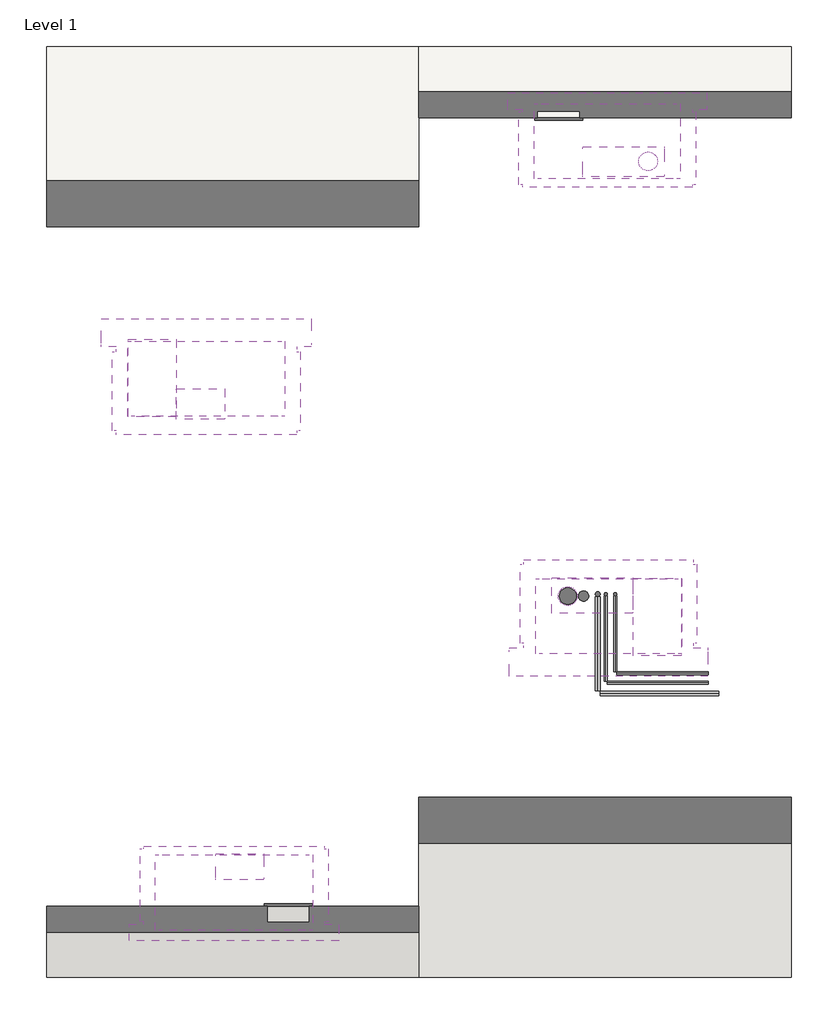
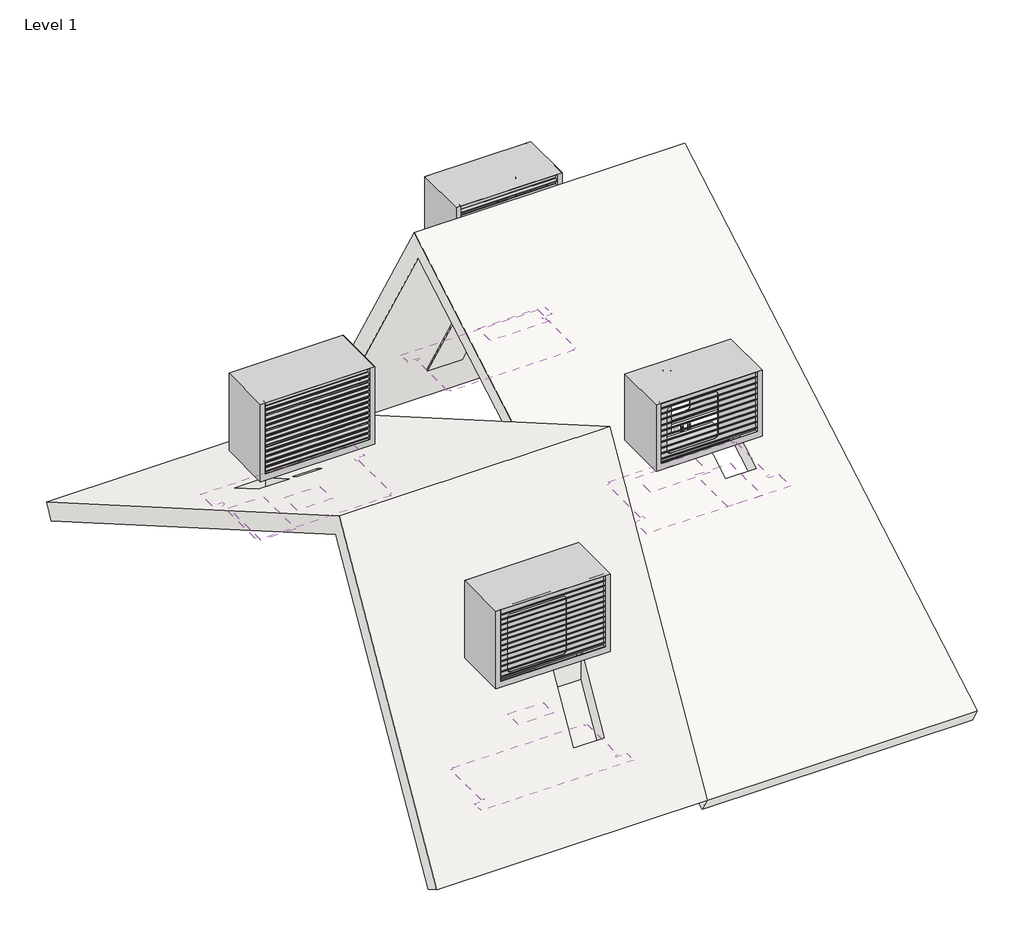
# One storey, incomplete: 12 coverings, 12 pipe segments, 4 unitary equipment elements, 2 roofs, 1 duct segment.
"""IFC4 building model written with IfcOpenShell, lengths in millimetres."""

from ifc_helpers import new_model, si_unit, point, frame, frame_2d, origin, place, context, project, spatial, circle_curve, trimmed, segment, composite_curve, outline, extrude, faceted_brep, transform, mapped, element, save
from components import covering_ebfa055f, covering_0022e7d6, covering_44cbcef2, covering_237e270b, covering_b66512e7, covering_b17e486a, covering_12e15cb3, covering_40b79405, inspection_panel_dda_93841c41, inspection_panel_dda_a83ceb8f, pipe_segment_adc9d0ba, delta_discovery_air_bdbf6794, delta_discovery_air_83ad3b17, delta_discovery_air_xl_f5126de7, delta_discovery_air_xl_14b97afa

model = new_model("IFC4")

# Units and contexts
model_context = context("Model", 3, world=origin())
ifc_project = project(units=[si_unit("LENGTHUNIT", "METRE", prefix="MILLI")], contexts=[model_context])

# Site, building, storey
site = spatial("IfcSite", under=ifc_project)
building = spatial("IfcBuilding", under=site)
storey = spatial("IfcBuildingStorey", under=building, Name="Level 1", Elevation=0.0)

# Coverings
placement = place(None, origin())
covering_shape = covering_ebfa055f(model_context)
element("IfcCovering", 1, ObjectType="DERS_353_AM_AEB_Delta Discovery Air_roofboard-GG_M&G : roofboard DDA", at=placement, inside=storey, context=model_context, shape_type="MappedRepresentation", body=[
    mapped(covering_shape, transform((8173.9996074, -2205.0044356, 2446.472508), x_axis=(0.0, 1.0, 0.0), y_axis=(-1.0, 0.0, 0.0), z_axis=(0.0, 0.0, 1.0))),
])
covering_2_shape = covering_0022e7d6(model_context)
element("IfcCovering", 2, ObjectType="DERS_353_AM_AEB_Delta Discovery Air_roofboard-GG_M&G : roofboard DDA-XL", at=placement, inside=storey, context=model_context, shape_type="MappedRepresentation", body=[
    mapped(covering_2_shape, transform((4387.1169231, -5120.7336825, 1913.2301476), x_axis=(0.0, 1.0, 0.0), y_axis=(-1.0, 0.0, 0.0), z_axis=(0.0, 0.0, 1.0))),
])
covering_3_shape = covering_44cbcef2(model_context)
element("IfcCovering", 3, ObjectType="DERS_353_AM_AEB_Delta Discovery Air_roofboard-GG_M&G : roofboard DDA", at=placement, inside=storey, context=model_context, shape_type="MappedRepresentation", body=[
    mapped(covering_3_shape, transform((8510.5299691, 2471.6914792, 1998.8333786), x_axis=(0.0, -1.0, 0.0), y_axis=(1.0, 0.0, 0.0), z_axis=(0.0, 0.0, 1.0))),
])
covering_4_shape = covering_237e270b(model_context)
element("IfcCovering", 4, ObjectType="DERS_353_AM_AEB_Delta Discovery Air_roofboard-GG_M&G : roofboard DDA-XL", at=placement, inside=storey, context=model_context, shape_type="MappedRepresentation", body=[
    mapped(covering_4_shape, transform((3967.4796779, -136.1061362, 2297.222508), x_axis=(0.0, -1.0, 0.0), y_axis=(1.0, 0.0, 0.0), z_axis=(0.0, 0.0, 1.0))),
])
covering_5_shape = covering_b66512e7(model_context)
element("IfcCovering", 5, ObjectType="DERS_420_AM_AEB_Delta Discovery Air_mountingbox-GG_M&G : mountingbox DDA", at=placement, inside=storey, context=model_context, shape_type="MappedRepresentation", body=[
    mapped(covering_5_shape, transform((8348.9996074, -2760.4599845, 2414.4513833), x_axis=(0.0, 1.0, 0.0), y_axis=(-1.0, 0.0, 0.0), z_axis=(0.0, 0.0, 1.0))),
])
covering_6_shape = covering_b17e486a(model_context)
element("IfcCovering", 6, ObjectType="DERS_420_AM_AEB_Delta Discovery Air_mountingbox-GG_M&G : mountingbox DDA-XL", at=placement, inside=storey, context=model_context, shape_type="MappedRepresentation", body=[
    mapped(covering_6_shape, transform((4325.6169231, -5727.2270166, 1362.7413328), x_axis=(0.0, 1.0, 0.0), y_axis=(-1.0, 0.0, 0.0), z_axis=(0.0, 0.0, 1.0))),
])
covering_7_shape = covering_12e15cb3(model_context)
element("IfcCovering", 7, ObjectType="DERS_420_AM_AEB_Delta Discovery Air_mountingbox-GG_M&G : mountingbox DDA", at=placement, inside=storey, context=model_context, shape_type="MappedRepresentation", body=[
    mapped(covering_7_shape, transform((8335.5299691, 3023.6848133, 1542.7413328), x_axis=(0.0, -1.0, 0.0), y_axis=(1.0, 0.0, 0.0), z_axis=(0.0, 0.0, 1.0))),
])
covering_8_shape = covering_40b79405(model_context)
element("IfcCovering", 8, ObjectType="DERS_420_AM_AEB_Delta Discovery Air_mountingbox-GG_M&G : mountingbox DDA-XL", at=placement, inside=storey, context=model_context, shape_type="MappedRepresentation", body=[
    mapped(covering_8_shape, transform((4028.9796779, 472.6099751, 2234.4513833), x_axis=(0.0, -1.0, 0.0), y_axis=(1.0, 0.0, 0.0), z_axis=(0.0, 0.0, 1.0))),
])
inspection_panel_dda_shape = inspection_panel_dda_93841c41(model_context)
element("IfcCovering", 9, ObjectType="DERS_353_AM_AEB_Delta Discovery Air_insp panel-GG_M&G : inspection panel DDA", at=placement, inside=storey, context=model_context, shape_type="MappedRepresentation", body=[
    mapped(inspection_panel_dda_shape, transform((8871.4996074, -2434.0681549, 2314.222508), x_axis=(0.0, 1.0000000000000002, 0.0), y_axis=(-1.0000000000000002, 0.0, 0.0), z_axis=(0.0, 0.0, 1.0))),
])
element("IfcCovering", 10, ObjectType="DERS_353_AM_AEB_Delta Discovery Air_insp panel-GG_M&G : inspection panel DDA", at=placement, inside=storey, context=model_context, shape_type="MappedRepresentation", body=[
    mapped(inspection_panel_dda_shape, transform((3446.4796779, 146.2181454, 2134.222508), x_axis=(0.0, -1.0000000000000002, 0.0), y_axis=(1.0000000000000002, 0.0, 0.0), z_axis=(0.0, 0.0, 1.0))),
])
inspection_panel_dda_2_shape = inspection_panel_dda_a83ceb8f(model_context)
element("IfcCovering", 11, ObjectType="DERS_353_AM_AEB_Delta Discovery Air_insp panel-GG_M&G : inspection panel DDA", at=placement, inside=storey, context=model_context, shape_type="MappedRepresentation", body=[
    mapped(inspection_panel_dda_2_shape, transform((4908.1169231, -5404.7336825, 1421.3277183), x_axis=(0.0, 1.0000000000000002, 0.0), y_axis=(-1.0000000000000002, 0.0, 0.0), z_axis=(0.0, 0.0, 1.0))),
])
element("IfcCovering", 12, ObjectType="DERS_353_AM_AEB_Delta Discovery Air_insp panel-GG_M&G : inspection panel DDA", at=placement, inside=storey, context=model_context, shape_type="MappedRepresentation", body=[
    mapped(inspection_panel_dda_2_shape, transform((7813.0299691, 2701.1914792, 1601.3277183), x_axis=(0.0, -1.0000000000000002, 0.0), y_axis=(1.0000000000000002, 0.0, 0.0), z_axis=(0.0, 0.0, 1.0))),
])

# Duct segment
element("IfcDuctSegment", 13, ObjectType="Default", at=placement, inside=storey, context=model_context, shape_type="SweptSolid", body=[
    extrude(outline(composite_curve([segment(trimmed(circle_curve(frame_2d((7910.9996074, -2203.4666504)), 90.0), [point((7910.9996074, -2113.4666504))], [point((8000.9996074, -2203.4666504))], False, "CARTESIAN"), True, "CONTINUOUS"), segment(trimmed(circle_curve(frame_2d((7910.9996074, -2203.4666504)), 90.0), [point((8000.9996074, -2203.4666504))], [point((7910.9996074, -2293.4666504))], False, "CARTESIAN"), True, "CONTINUOUS"), segment(trimmed(circle_curve(frame_2d((7910.9996074, -2203.4666504)), 90.0), [point((7910.9996074, -2293.4666504))], [point((7820.9996074, -2203.4666504))], False, "CARTESIAN"), True, "CONTINUOUS"), segment(trimmed(circle_curve(frame_2d((7910.9996074, -2203.4666504)), 90.0), [point((7820.9996074, -2203.4666504))], [point((7910.9996074, -2113.4666504))], False, "CARTESIAN"), True, "CONTINUOUS")], self_intersect=False)), frame((0.0, 0.0, 735.229457), z_axis=(0.0, 0.0, 1.0), x_axis=(1.0, 0.0, 0.0)), (0.0, 0.0, 1.0), 1300.0),
])

# Pipe segments
pipe_segment_shape = pipe_segment_adc9d0ba(model_context)
element("IfcPipeSegment", 14, ObjectType="DERS_420_AM_AEB_Delta Discovery Air_pipe extension set-GG_M&G : pipe ext set L=1000mm", at=placement, inside=storey, context=model_context, shape_type="MappedRepresentation", body=[
    mapped(pipe_segment_shape, transform((7910.9996074, -2203.4666504, 3035.229457), x_axis=(1.0, 0.0, 0.0), y_axis=(0.0, 1.0, 0.0), z_axis=(0.0, 0.0, 1.0))),
])
element("IfcPipeSegment", 15, ObjectType="DERS_420_AM_AEB_Delta Discovery Air_pipe extension set-GG_M&G : pipe ext set L=1000mm", at=placement, inside=storey, context=model_context, shape_type="MappedRepresentation", body=[
    mapped(pipe_segment_shape, transform((8773.5299691, 2466.6914792, 3035.229457), x_axis=(-1.0, 0.0, 0.0), y_axis=(0.0, -1.0, 0.0), z_axis=(0.0, 0.0, 1.0))),
])
element("IfcPipeSegment", 16, ObjectType="design HDPE", at=placement, inside=storey, context=model_context, shape_type="SweptSolid", body=[
    extrude(outline(composite_curve([segment(trimmed(circle_curve(frame_2d((0.0, 24.9999999)), 25.0), [point((25.0, 24.9999999))], [point((0.0, 0.0))], False, "CARTESIAN"), True, "CONTINUOUS"), segment(trimmed(circle_curve(frame_2d((0.0, 24.9999999)), 25.0), [point((0.0, 0.0))], [point((-25.0, 24.9999999))], False, "CARTESIAN"), True, "CONTINUOUS"), segment(trimmed(circle_curve(frame_2d((0.0, 24.9999999)), 25.0), [point((-25.0, 24.9999999))], [point((0.0, 50.0))], False, "CARTESIAN"), True, "CONTINUOUS"), segment(trimmed(circle_curve(frame_2d((0.0, 24.9999999)), 25.0), [point((0.0, 50.0))], [point((25.0, 24.9999999))], False, "CARTESIAN"), True, "CONTINUOUS")], self_intersect=False)), frame((8233.1495399, -3221.3594747, 79.9148917), z_axis=(0.0, 0.9998875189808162, 0.01499831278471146), x_axis=(1.0, 0.0, 0.0)), (0.0, 0.0, 1.0), 1011.1347494),
])
element("IfcPipeSegment", 17, ObjectType="design HDPE", at=placement, inside=storey, context=model_context, shape_type="SweptSolid", body=[
    extrude(outline(composite_curve([segment(trimmed(circle_curve(frame_2d((0.0, 25.0)), 25.0), [point((0.0, 50.0))], [point((25.0, 25.0))], False, "CARTESIAN"), True, "CONTINUOUS"), segment(trimmed(circle_curve(frame_2d((0.0, 25.0)), 25.0), [point((25.0, 25.0))], [point((0.0, 0.0))], False, "CARTESIAN"), True, "CONTINUOUS"), segment(trimmed(circle_curve(frame_2d((0.0, 25.0)), 25.0), [point((0.0, 0.0))], [point((-25.0, 25.0))], False, "CARTESIAN"), True, "CONTINUOUS"), segment(trimmed(circle_curve(frame_2d((0.0, 25.0)), 25.0), [point((-25.0, 25.0))], [point((0.0, 50.0))], False, "CARTESIAN"), True, "CONTINUOUS")], self_intersect=False)), frame((9532.9996074, -3273.9813674, 35.0), z_axis=(-0.9998875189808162, 0.0, 0.014998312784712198), x_axis=(0.014998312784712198, 0.0, 0.9998875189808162)), (0.0, 0.0, 1.0), 1271.9962924),
])
element("IfcPipeSegment", 18, ObjectType="design HDPE", at=placement, inside=storey, context=model_context, shape_type="SweptSolid", body=[
    extrude(outline(composite_curve([segment(trimmed(circle_curve(frame_2d((8232.9996074, -2181.9666504)), 25.0), [point((8257.9996074, -2181.9666504))], [point((8232.9996074, -2206.9666504))], False, "CARTESIAN"), True, "CONTINUOUS"), segment(trimmed(circle_curve(frame_2d((8232.9996074, -2181.9666504)), 25.0), [point((8232.9996074, -2206.9666504))], [point((8207.9996074, -2181.9666504))], False, "CARTESIAN"), True, "CONTINUOUS"), segment(trimmed(circle_curve(frame_2d((8232.9996074, -2181.9666504)), 25.0), [point((8207.9996074, -2181.9666504))], [point((8232.9996074, -2156.9666504))], False, "CARTESIAN"), True, "CONTINUOUS"), segment(trimmed(circle_curve(frame_2d((8232.9996074, -2181.9666504)), 25.0), [point((8232.9996074, -2156.9666504))], [point((8257.9996074, -2181.9666504))], False, "CARTESIAN"), True, "CONTINUOUS")], self_intersect=False)), frame((0.0, 0.0, 98.5029718), z_axis=(0.0, 0.0, 1.0), x_axis=(1.0, 0.0, 0.0)), (0.0, 0.0, 1.0), 1936.7264853),
])
element("IfcPipeSegment", 19, ObjectType="design HDPE", at=placement, inside=storey, context=model_context, shape_type="SweptSolid", body=[
    extrude(outline(composite_curve([segment(trimmed(circle_curve(frame_2d((8080.9996074, -2203.4666504)), 55.0), [point((8135.9996074, -2203.4666504))], [point((8080.9996074, -2258.4666504))], False, "CARTESIAN"), True, "CONTINUOUS"), segment(trimmed(circle_curve(frame_2d((8080.9996074, -2203.4666504)), 55.0), [point((8080.9996074, -2258.4666504))], [point((8025.9996074, -2203.4666504))], False, "CARTESIAN"), True, "CONTINUOUS"), segment(trimmed(circle_curve(frame_2d((8080.9996074, -2203.4666504)), 55.0), [point((8025.9996074, -2203.4666504))], [point((8080.9996074, -2148.4666504))], False, "CARTESIAN"), True, "CONTINUOUS"), segment(trimmed(circle_curve(frame_2d((8080.9996074, -2203.4666504)), 55.0), [point((8080.9996074, -2148.4666504))], [point((8135.9996074, -2203.4666504))], False, "CARTESIAN"), True, "CONTINUOUS")], self_intersect=False)), frame((0.0, 0.0, 316.0), z_axis=(0.0, 0.0, 1.0), x_axis=(1.0, 0.0, 0.0)), (0.0, 0.0, 1.0), 1719.229457),
])
element("IfcPipeSegment", 20, ObjectType="design steel pipes", at=placement, inside=storey, context=model_context, shape_type="SweptSolid", body=[
    extrude(outline(composite_curve([segment(trimmed(circle_curve(frame_2d((8419.9996074, -2181.9666504)), 16.85), [point((8436.8496074, -2181.9666504))], [point((8419.9996074, -2198.8166504))], False, "CARTESIAN"), True, "CONTINUOUS"), segment(trimmed(circle_curve(frame_2d((8419.9996074, -2181.9666504)), 16.85), [point((8419.9996074, -2198.8166504))], [point((8403.1496074, -2181.9666504))], False, "CARTESIAN"), True, "CONTINUOUS"), segment(trimmed(circle_curve(frame_2d((8419.9996074, -2181.9666504)), 16.85), [point((8403.1496074, -2181.9666504))], [point((8419.9996074, -2165.1166504))], False, "CARTESIAN"), True, "CONTINUOUS"), segment(trimmed(circle_curve(frame_2d((8419.9996074, -2181.9666504)), 16.85), [point((8419.9996074, -2165.1166504))], [point((8436.8496074, -2181.9666504))], False, "CARTESIAN"), True, "CONTINUOUS")], self_intersect=False)), frame((0.0, 0.0, 42.5), z_axis=(0.0, 0.0, 1.0), x_axis=(1.0, 0.0, 0.0)), (0.0, 0.0, 1.0), 2984.9867719),
])
element("IfcPipeSegment", 21, ObjectType="design steel pipes", at=placement, inside=storey, context=model_context, shape_type="SweptSolid", body=[
    extrude(outline(composite_curve([segment(trimmed(circle_curve(frame_2d((25.0, 8419.9996074)), 16.85), [point((25.0, 8403.1496074))], [point((8.15, 8419.9996074))], False, "CARTESIAN"), True, "CONTINUOUS"), segment(trimmed(circle_curve(frame_2d((25.0, 8419.9996074)), 16.85), [point((8.15, 8419.9996074))], [point((25.0, 8436.8496074))], False, "CARTESIAN"), True, "CONTINUOUS"), segment(trimmed(circle_curve(frame_2d((25.0, 8419.9996074)), 16.85), [point((25.0, 8436.8496074))], [point((41.85, 8419.9996074))], False, "CARTESIAN"), True, "CONTINUOUS"), segment(trimmed(circle_curve(frame_2d((25.0, 8419.9996074)), 16.85), [point((41.85, 8419.9996074))], [point((25.0, 8403.1496074))], False, "CARTESIAN"), True, "CONTINUOUS")], self_intersect=False)), frame((0.0, -3015.3499545, 0.0), z_axis=(0.0, 1.0, 0.0), x_axis=(0.0, 0.0, 1.0)), (0.0, 0.0, 1.0), 815.8833041),
])
element("IfcPipeSegment", 22, ObjectType="design steel pipes", at=placement, inside=storey, context=model_context, shape_type="SweptSolid", body=[
    extrude(outline(composite_curve([segment(trimmed(circle_curve(frame_2d((0.0, 16.8499999)), 16.85), [point((-16.85, 16.8499999))], [point((0.0, 33.6999999))], False, "CARTESIAN"), True, "CONTINUOUS"), segment(trimmed(circle_curve(frame_2d((0.0, 16.8499999)), 16.85), [point((0.0, 33.6999999))], [point((16.85, 16.8499999))], False, "CARTESIAN"), True, "CONTINUOUS"), segment(trimmed(circle_curve(frame_2d((0.0, 16.8499999)), 16.85), [point((16.85, 16.8499999))], [point((0.0, 0.0))], False, "CARTESIAN"), True, "CONTINUOUS"), segment(trimmed(circle_curve(frame_2d((0.0, 16.8499999)), 16.85), [point((0.0, 0.0))], [point((-16.85, 16.8499999))], False, "CARTESIAN"), True, "CONTINUOUS")], self_intersect=False)), frame((8437.5000121, -3032.8499545, 8.1504204), z_axis=(0.9999999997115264, 0.0, 2.401972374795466e-05), x_axis=(0.0, 1.0, 0.0)), (0.0, 0.0, 1.0), 982.5443409),
])
element("IfcPipeSegment", 23, ObjectType="design steel pipes", at=placement, inside=storey, context=model_context, shape_type="SweptSolid", body=[
    extrude(outline(composite_curve([segment(trimmed(circle_curve(frame_2d((8319.9996074, -2181.9666504)), 16.85), [point((8303.1496074, -2181.9666504))], [point((8319.9996074, -2165.1166504))], False, "CARTESIAN"), True, "CONTINUOUS"), segment(trimmed(circle_curve(frame_2d((8319.9996074, -2181.9666504)), 16.85), [point((8319.9996074, -2165.1166504))], [point((8336.8496074, -2181.9666504))], False, "CARTESIAN"), True, "CONTINUOUS"), segment(trimmed(circle_curve(frame_2d((8319.9996074, -2181.9666504)), 16.85), [point((8336.8496074, -2181.9666504))], [point((8319.9996074, -2198.8166504))], False, "CARTESIAN"), True, "CONTINUOUS"), segment(trimmed(circle_curve(frame_2d((8319.9996074, -2181.9666504)), 16.85), [point((8319.9996074, -2198.8166504))], [point((8303.1496074, -2181.9666504))], False, "CARTESIAN"), True, "CONTINUOUS")], self_intersect=False)), frame((0.0, 0.0, 42.5), z_axis=(0.0, 0.0, 1.0), x_axis=(1.0, 0.0, 0.0)), (0.0, 0.0, 1.0), 2984.9867719),
])
element("IfcPipeSegment", 24, ObjectType="design steel pipes", at=placement, inside=storey, context=model_context, shape_type="SweptSolid", body=[
    extrude(outline(composite_curve([segment(trimmed(circle_curve(frame_2d((25.0, 8319.9996074)), 16.85), [point((25.0, 8303.1496074))], [point((8.15, 8319.9996074))], False, "CARTESIAN"), True, "CONTINUOUS"), segment(trimmed(circle_curve(frame_2d((25.0, 8319.9996074)), 16.85), [point((8.15, 8319.9996074))], [point((25.0, 8336.8496074))], False, "CARTESIAN"), True, "CONTINUOUS"), segment(trimmed(circle_curve(frame_2d((25.0, 8319.9996074)), 16.85), [point((25.0, 8336.8496074))], [point((41.85, 8319.9996074))], False, "CARTESIAN"), True, "CONTINUOUS"), segment(trimmed(circle_curve(frame_2d((25.0, 8319.9996074)), 16.85), [point((41.85, 8319.9996074))], [point((25.0, 8303.1496074))], False, "CARTESIAN"), True, "CONTINUOUS")], self_intersect=False)), frame((0.0, -3115.3499545, 0.0), z_axis=(0.0, 1.0, 0.0), x_axis=(0.0, 0.0, 1.0)), (0.0, 0.0, 1.0), 915.8833041),
])
element("IfcPipeSegment", 25, ObjectType="design steel pipes", at=placement, inside=storey, context=model_context, shape_type="SweptSolid", body=[
    extrude(outline(composite_curve([segment(trimmed(circle_curve(frame_2d((0.0, 16.8499999)), 16.85), [point((-16.85, 16.8499999))], [point((0.0, 33.6999999))], False, "CARTESIAN"), True, "CONTINUOUS"), segment(trimmed(circle_curve(frame_2d((0.0, 16.8499999)), 16.85), [point((0.0, 33.6999999))], [point((16.85, 16.8499999))], False, "CARTESIAN"), True, "CONTINUOUS"), segment(trimmed(circle_curve(frame_2d((0.0, 16.8499999)), 16.85), [point((16.85, 16.8499999))], [point((0.0, 0.0))], False, "CARTESIAN"), True, "CONTINUOUS"), segment(trimmed(circle_curve(frame_2d((0.0, 16.8499999)), 16.85), [point((0.0, 0.0))], [point((-16.85, 16.8499999))], False, "CARTESIAN"), True, "CONTINUOUS")], self_intersect=False)), frame((8337.5000121, -3132.8499545, 8.1504204), z_axis=(0.9999999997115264, 0.0, 2.401972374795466e-05), x_axis=(0.0, 1.0, 0.0)), (0.0, 0.0, 1.0), 1082.5443409),
])

# Roofs
element("IfcRoof", 26, ObjectType="Roof 1", at=placement, inside=storey, context=model_context, shape_type="Brep", body=[
    faceted_brep([(2311.6571684, -6299.8095774, 371.0107917), (2311.6571684, -3799.8095774, 4701.1378106), (2311.6571684, 3700.1904226, 371.0107917), (2311.6571684, 3575.1904226, 154.5044407), (2311.6571684, -3708.3032265, 4359.6314596), (2311.6571684, -6083.3032265, 246.0107917), (6311.6571684, -3799.8095774, 4701.1378106), (6311.6571684, -6299.8095774, 371.0107917), (6311.6571684, -6083.3032265, 246.0107917), (6311.6571684, -3708.3032265, 4359.6314596), (6311.6571684, 3575.1904226, 154.5044407), (6311.6571684, 3700.1904226, 371.0107917), (5135.6169231, -5102.2336825, 2445.2730876), (5135.6169231, -5707.2336825, 1397.382349), (4680.6169231, -5707.2336825, 1397.382349), (4680.6169231, -5102.2336825, 2445.2730876), (4582.6169231, -5060.7336825, 2517.1531961), (4582.6169231, -5180.7336825, 2309.3070992), (4219.6169231, -5180.7336825, 2309.3070992), (4219.6169231, -5060.7336825, 2517.1531961), (3218.9796779, -156.4577332, 2597.6476426), (3218.9796779, 448.894024, 2248.1476426), (3673.9796779, 448.894024, 2248.1476426), (3673.9796779, -156.4577332, 2597.6476426), (3771.9796779, -196.2949018, 2620.6476426), (3771.9796779, -75.9173707, 2551.1476426), (4134.9796779, -75.9173707, 2551.1476426), (4134.9796779, -196.2949018, 2620.6476426), (3218.9796779, 448.894024, 1959.472508), (3218.9796779, -156.4577332, 2308.972508), (3673.9796779, -156.4577332, 2308.972508), (3673.9796779, 448.894024, 1959.472508), (3771.9796779, -75.9173707, 2262.472508), (3771.9796779, -196.2949018, 2331.972508), (4134.9796779, -196.2949018, 2331.972508), (4134.9796779, -75.9173707, 2262.472508), (5135.6169231, -5707.2336825, 897.382349), (5135.6169231, -5102.2336825, 1945.2730876), (4680.6169231, -5102.2336825, 1945.2730876), (4680.6169231, -5707.2336825, 897.382349), (4582.6169231, -5180.7336825, 1809.3070992), (4582.6169231, -5060.7336825, 2017.1531961), (4219.6169231, -5060.7336825, 2017.1531961), (4219.6169231, -5180.7336825, 1809.3070992)], [[[0, 1, 2, 3, 4, 5]], [[6, 7, 8, 9, 10, 11]], [[1, 0, 7, 6], [12, 13, 14, 15], [16, 17, 18, 19]], [[2, 1, 6, 11], [20, 21, 22, 23], [24, 25, 26, 27]], [[9, 4, 3, 10], [28, 29, 30, 31], [32, 33, 34, 35]], [[4, 9, 8, 5], [36, 37, 38, 39], [40, 41, 42, 43]], [[3, 2, 11, 10]], [[0, 5, 8, 7]], [[36, 13, 12, 37]], [[38, 15, 14, 39]], [[37, 12, 15, 38]], [[13, 36, 39, 14]], [[40, 17, 16, 41]], [[42, 19, 18, 43]], [[41, 16, 19, 42]], [[17, 40, 43, 18]], [[28, 21, 20, 29]], [[30, 23, 22, 31]], [[29, 20, 23, 30]], [[21, 28, 31, 22]], [[32, 25, 24, 33]], [[34, 27, 26, 35]], [[33, 24, 27, 34]], [[25, 32, 35, 26]]]),
])
element("IfcRoof", 27, ObjectType="Roof 1", at=placement, inside=storey, context=model_context, shape_type="Brep", body=[
    faceted_brep([(10311.6571684, 3700.1904226, 371.0107917), (10311.6571684, 1200.1904226, 4701.1378106), (10311.6571684, -6299.8095774, 371.0107917), (10311.6571684, -6174.8095774, 154.5044407), (10311.6571684, 1108.6840716, 4359.6314596), (10311.6571684, 3483.6840716, 246.0107917), (6311.6571684, 1200.1904226, 4701.1378106), (6311.6571684, 3700.1904226, 371.0107917), (6311.6571684, 3483.6840716, 246.0107917), (6311.6571684, 1108.6840716, 4359.6314596), (6311.6571684, -6174.8095774, 154.5044407), (6311.6571684, -6299.8095774, 371.0107917), (7585.5299691, 2398.6914792, 2625.2730876), (7585.5299691, 3003.6914792, 1577.382349), (8040.5299691, 3003.6914792, 1577.382349), (8040.5299691, 2398.6914792, 2625.2730876), (8142.5299691, 2361.6914792, 2689.3589674), (8142.5299691, 2581.6914792, 2308.3077898), (8884.5299691, 2581.6914792, 2308.3077898), (8884.5299691, 2361.6914792, 2689.3589674), (9098.9996074, -2131.3922763, 2777.6476426), (9098.9996074, -2736.7440335, 2428.1476426), (8643.9996074, -2736.7440335, 2428.1476426), (8643.9996074, -2131.3922763, 2777.6476426), (8541.9996074, -2095.0192093, 2798.6476426), (8541.9996074, -2314.9896619, 2671.6476426), (7799.9996074, -2314.9896619, 2671.6476426), (7799.9996074, -2095.0192093, 2798.6476426), (9098.9996074, -2736.7440335, 2139.472508), (9098.9996074, -2131.3922763, 2488.972508), (8643.9996074, -2131.3922763, 2488.972508), (8643.9996074, -2736.7440335, 2139.472508), (8541.9996074, -2314.9896619, 2382.972508), (8541.9996074, -2095.0192093, 2509.972508), (7799.9996074, -2095.0192093, 2509.972508), (7799.9996074, -2314.9896619, 2382.972508), (7585.5299691, 3003.6914792, 1077.382349), (7585.5299691, 2398.6914792, 2125.2730876), (8040.5299691, 2398.6914792, 2125.2730876), (8040.5299691, 3003.6914792, 1077.382349), (8142.5299691, 2581.6914792, 1808.3077898), (8142.5299691, 2361.6914792, 2189.3589674), (8884.5299691, 2361.6914792, 2189.3589674), (8884.5299691, 2581.6914792, 1808.3077898)], [[[0, 1, 2, 3, 4, 5]], [[6, 7, 8, 9, 10, 11]], [[1, 0, 7, 6], [12, 13, 14, 15], [16, 17, 18, 19]], [[2, 1, 6, 11], [20, 21, 22, 23], [24, 25, 26, 27]], [[9, 4, 3, 10], [28, 29, 30, 31], [32, 33, 34, 35]], [[4, 9, 8, 5], [36, 37, 38, 39], [40, 41, 42, 43]], [[3, 2, 11, 10]], [[0, 5, 8, 7]], [[28, 21, 20, 29]], [[30, 23, 22, 31]], [[29, 20, 23, 30]], [[21, 28, 31, 22]], [[32, 25, 24, 33]], [[34, 27, 26, 35]], [[33, 24, 27, 34]], [[25, 32, 35, 26]], [[36, 13, 12, 37]], [[38, 15, 14, 39]], [[37, 12, 15, 38]], [[13, 36, 39, 14]], [[40, 17, 16, 41]], [[42, 19, 18, 43]], [[41, 16, 19, 42]], [[17, 40, 43, 18]]]),
])

# Unitary equipment
delta_discovery_air_shape = delta_discovery_air_bdbf6794(model_context)
element("IfcUnitaryEquipment", 28, ObjectType="DERS_420_AM_AEB_Delta Discovery Air_M&G : Delta Discovery Air", at=placement, inside=storey, context=model_context, shape_type="MappedRepresentation", body=[
    mapped(delta_discovery_air_shape, transform((8348.9996074, -2017.9666504, 2843.1339582), x_axis=(1.0, 0.0, 0.0), y_axis=(0.0, 1.0, 0.0), z_axis=(0.0, 0.0, 1.0))),
])
delta_discovery_air_2_shape = delta_discovery_air_83ad3b17(model_context)
element("IfcUnitaryEquipment", 29, ObjectType="DERS_420_AM_AEB_Delta Discovery Air_M&G : Delta Discovery Air", at=placement, inside=storey, context=model_context, shape_type="MappedRepresentation", body=[
    mapped(delta_discovery_air_2_shape, transform((8335.5299691, 2281.1914792, 2828.7890575), x_axis=(-1.0, 0.0, 0.0), y_axis=(0.0, -1.0, 0.0), z_axis=(0.0, 0.0, 1.0))),
])
delta_discovery_air_xl_shape = delta_discovery_air_xl_f5126de7(model_context)
element("IfcUnitaryEquipment", 30, ObjectType="DERS_420_AM_AEB_Delta Discovery Air_M&G : Delta Discovery Air-XL", at=placement, inside=storey, context=model_context, shape_type="MappedRepresentation", body=[
    mapped(delta_discovery_air_xl_shape, transform((4325.6169231, -4984.7336825, 2648.7890575), x_axis=(1.0, 0.0, 0.0), y_axis=(0.0, 1.0, 0.0), z_axis=(0.0, 0.0, 1.0))),
])
delta_discovery_air_xl_2_shape = delta_discovery_air_xl_14b97afa(model_context)
element("IfcUnitaryEquipment", 31, ObjectType="DERS_420_AM_AEB_Delta Discovery Air_M&G : Delta Discovery Air-XL", at=placement, inside=storey, context=model_context, shape_type="MappedRepresentation", body=[
    mapped(delta_discovery_air_xl_2_shape, transform((4028.9796779, -269.8833591, 2663.1339582), x_axis=(-1.0, 0.0, 0.0), y_axis=(0.0, -1.0, 0.0), z_axis=(0.0, 0.0, 1.0))),
])

save(model, "model.ifc")
